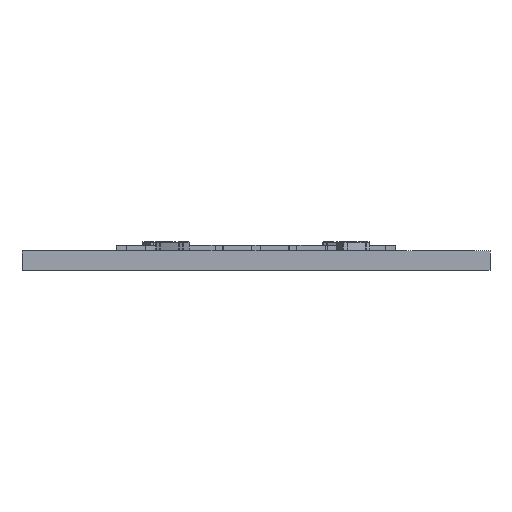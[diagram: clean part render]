
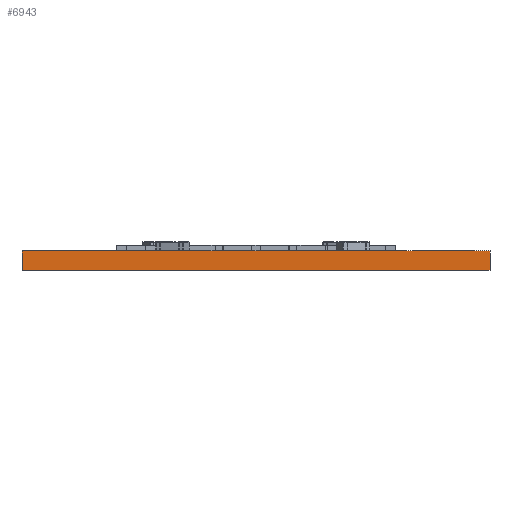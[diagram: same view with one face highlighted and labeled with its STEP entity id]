
A CAD part, left-side view. The second image highlights one B-rep face of the part: STEP entity #6943.
In plain terms, the highlighted planar face has unit normal (-1, 0, 0).
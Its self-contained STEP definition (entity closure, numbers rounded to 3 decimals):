
#951=DIRECTION('',(0.,0.,1.));
#952=VECTOR('',#951,1.15);
#953=CARTESIAN_POINT('',(-14.,14.,0.));
#954=LINE('',#953,#952);
#959=DIRECTION('',(0.,1.,0.));
#960=VECTOR('',#959,28.);
#961=CARTESIAN_POINT('',(-14.,-14.,1.15));
#962=LINE('',#961,#960);
#967=DIRECTION('',(0.,0.,-1.));
#968=VECTOR('',#967,1.15);
#969=CARTESIAN_POINT('',(-14.,-14.,1.15));
#970=LINE('',#969,#968);
#987=DIRECTION('',(0.,1.,0.));
#988=VECTOR('',#987,28.);
#989=CARTESIAN_POINT('',(-14.,-14.,0.));
#990=LINE('',#989,#988);
#4972=CARTESIAN_POINT('',(-14.,14.,0.));
#4973=CARTESIAN_POINT('',(-14.,14.,1.15));
#4974=VERTEX_POINT('',#4972);
#4975=VERTEX_POINT('',#4973);
#5064=CARTESIAN_POINT('',(-14.,-14.,0.));
#5065=VERTEX_POINT('',#5064);
#5068=CARTESIAN_POINT('',(-14.,-14.,1.15));
#5069=VERTEX_POINT('',#5068);
#6930=CARTESIAN_POINT('',(-14.,14.,1.15));
#6931=DIRECTION('',(-1.,0.,0.));
#6932=DIRECTION('',(0.,0.,1.));
#6933=AXIS2_PLACEMENT_3D('',#6930,#6931,#6932);
#6934=PLANE('',#6933);
#6936=ORIENTED_EDGE('',*,*,#6935,.T.);
#6938=ORIENTED_EDGE('',*,*,#6937,.T.);
#6939=ORIENTED_EDGE('',*,*,#6920,.T.);
#6940=ORIENTED_EDGE('',*,*,#6321,.F.);
#6941=EDGE_LOOP('',(#6936,#6938,#6939,#6940));
#6942=FACE_OUTER_BOUND('',#6941,.F.);
#6943=ADVANCED_FACE('',(#6942),#6934,.T.);
#6321=EDGE_CURVE('',#5069,#4975,#962,.T.);
#6920=EDGE_CURVE('',#4974,#4975,#954,.T.);
#6935=EDGE_CURVE('',#5069,#5065,#970,.T.);
#6937=EDGE_CURVE('',#5065,#4974,#990,.T.);
